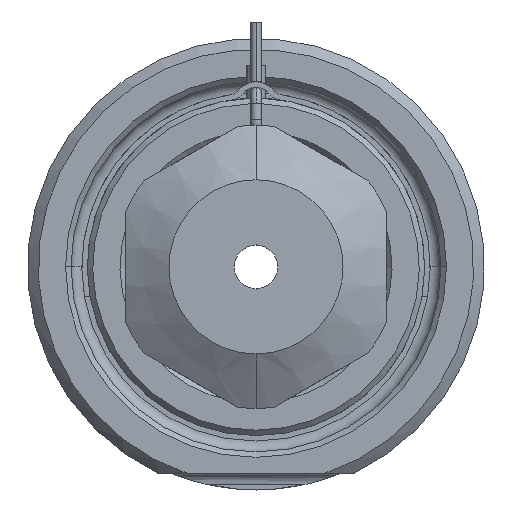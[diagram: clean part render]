
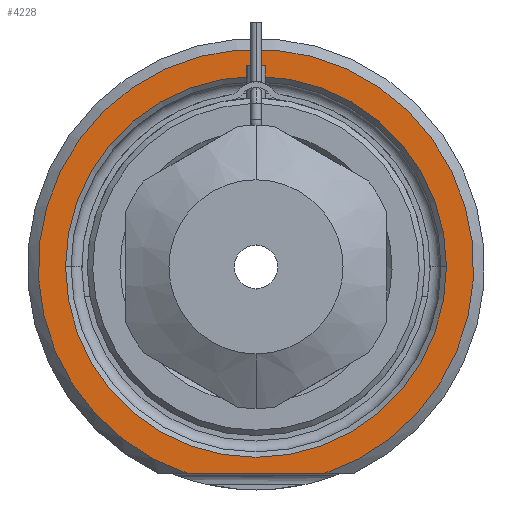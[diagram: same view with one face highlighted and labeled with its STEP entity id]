
A CAD part, front view. The second image highlights one B-rep face of the part: STEP entity #4228.
In plain terms, the highlighted planar face has unit normal (0, -1, 0).
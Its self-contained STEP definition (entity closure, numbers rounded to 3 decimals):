
#673=CARTESIAN_POINT('',(0.,0.,0.));
#674=DIRECTION('',(0.,-1.,0.));
#675=DIRECTION('',(0.312,0.,-0.95));
#676=AXIS2_PLACEMENT_3D('',#673,#674,#675);
#697=DIRECTION('',(1.,0.,0.));
#698=VECTOR('',#697,12.49);
#699=CARTESIAN_POINT('',(-6.245,0.,-19.));
#700=LINE('',#699,#698);
#701=CARTESIAN_POINT('',(0.,0.,0.));
#702=DIRECTION('',(0.,1.,0.));
#703=DIRECTION('',(-1.,0.,0.));
#704=AXIS2_PLACEMENT_3D('',#701,#702,#703);
#706=CARTESIAN_POINT('',(0.,0.,0.));
#707=DIRECTION('',(0.,1.,0.));
#708=DIRECTION('',(1.,0.,0.));
#709=AXIS2_PLACEMENT_3D('',#706,#707,#708);
#2760=CARTESIAN_POINT('',(-17.5,0.,0.));
#2761=CARTESIAN_POINT('',(17.5,0.,0.));
#2762=VERTEX_POINT('',#2760);
#2763=VERTEX_POINT('',#2761);
#2804=CARTESIAN_POINT('',(-6.245,0.,-19.));
#2805=CARTESIAN_POINT('',(6.245,0.,-19.));
#2806=VERTEX_POINT('',#2804);
#2807=VERTEX_POINT('',#2805);
#4213=CARTESIAN_POINT('',(0.,0.,0.));
#4214=DIRECTION('',(0.,-1.,0.));
#4215=DIRECTION('',(1.,0.,0.));
#4216=AXIS2_PLACEMENT_3D('',#4213,#4214,#4215);
#4217=PLANE('',#4216);
#4218=ORIENTED_EDGE('',*,*,#4145,.F.);
#4219=ORIENTED_EDGE('',*,*,#4205,.F.);
#4220=EDGE_LOOP('',(#4218,#4219));
#4221=FACE_OUTER_BOUND('',#4220,.F.);
#4223=ORIENTED_EDGE('',*,*,#4222,.F.);
#4225=ORIENTED_EDGE('',*,*,#4224,.F.);
#4226=EDGE_LOOP('',(#4223,#4225));
#4227=FACE_BOUND('',#4226,.F.);
#4228=ADVANCED_FACE('',(#4221,#4227),#4217,.T.);
#677=CIRCLE('',#676,20.);
#705=CIRCLE('',#704,17.5);
#710=CIRCLE('',#709,17.5);
#4145=EDGE_CURVE('',#2806,#2807,#700,.T.);
#4205=EDGE_CURVE('',#2807,#2806,#677,.T.);
#4222=EDGE_CURVE('',#2762,#2763,#705,.T.);
#4224=EDGE_CURVE('',#2763,#2762,#710,.T.);
